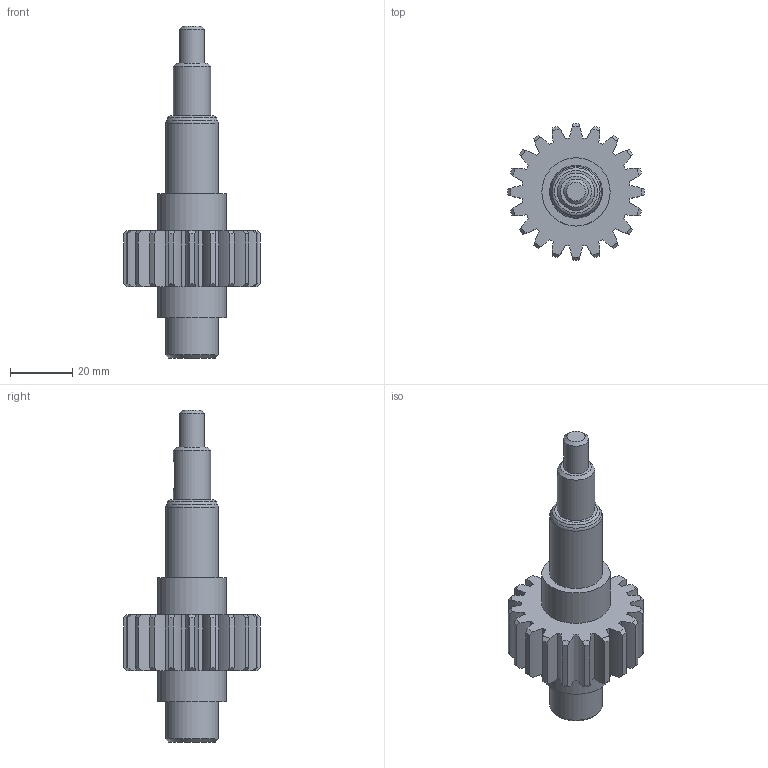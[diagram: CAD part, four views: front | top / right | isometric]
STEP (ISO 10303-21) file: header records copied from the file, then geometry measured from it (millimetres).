
FILE_DESCRIPTION(/* description */ (''),/* implementation_level */ '2;1');
FILE_NAME(/* name */ 'C:\Users\101258642\Desktop\391203E1027\피니언 기어\391203E1027-피니언기어.stp',/* time_stamp */ '2019-12-21T11:42:57+09:00',/* author */ ('101258642'),/* organization */ (''),/* preprocessor_version */ 'ST-DEVELOPER v15.6',/* originating_system */ 'Autodesk Inventor 2015',/* authorisation */ '');
FILE_SCHEMA (('AUTOMOTIVE_DESIGN { 1 0 10303 214 3 1 1 }'));
Length unit declared in the file: millimetre
Products named in the file (1): 피니언 기어
Bounding box: 44 x 44 x 107 mm (x, y, z)
Volume: 41715.1 mm3; surface area: 11392.5 mm2
Topology: 1 solids, 1 shells, 145 faces, 405 edges, 269 vertices
Faces by surface type: cylinder 88, cone 44, plane 11, torus 2
Full cylindrical faces by diameter (mm): 8 x1, 12 x1, 17 x2, 22 x2
Entity records: 4838 total; most frequent: CARTESIAN_POINT 1082, DIRECTION 820, ORIENTED_EDGE 784, EDGE_CURVE 392, AXIS2_PLACEMENT_3D 366, VERTEX_POINT 268, CIRCLE 220, EDGE_LOOP 164
